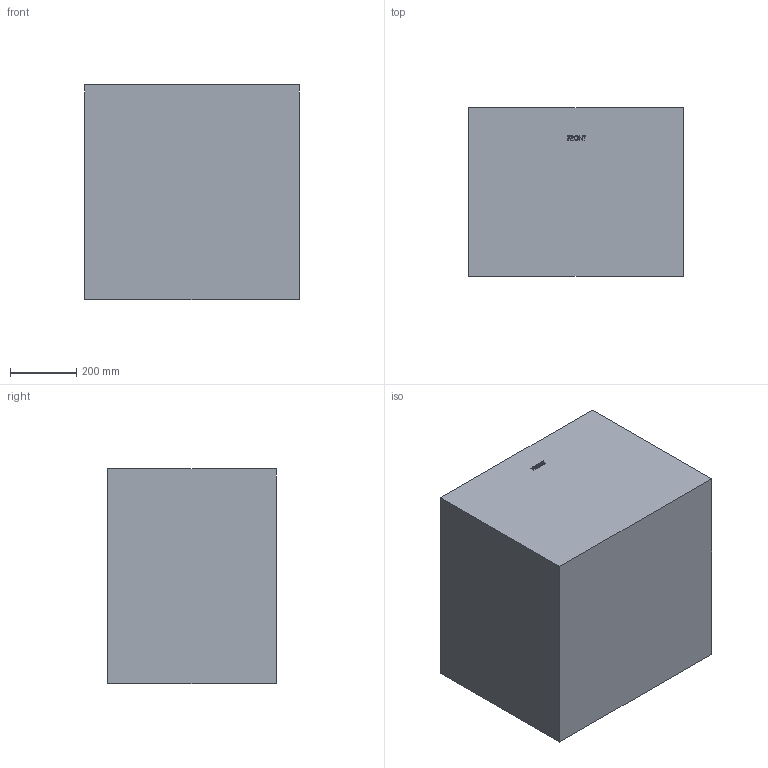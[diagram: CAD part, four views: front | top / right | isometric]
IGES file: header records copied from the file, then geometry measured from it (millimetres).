
Start section: SolidWorks IGES file using analytic representation for surfaces
Global section: file name: C:\working\OEM\0370-BOT-OEM.IGS; native system: SolidWorks 2007; preprocessor: SolidWorks 2007; author: darato; date: 080812.084118; units: inch
Bounding box: 647.69 x 508 x 650.23 mm (x, y, z)
Surface area: 3247487 mm2 (no closed solid volume)
Topology: 0 solids, 0 shells, 1572 faces, 12798 edges, 12756 vertices
Faces by surface type: bspline 1039, revolution 533
